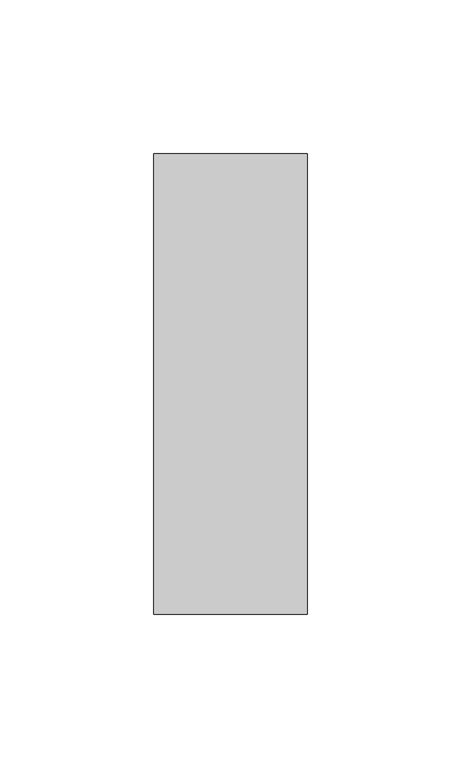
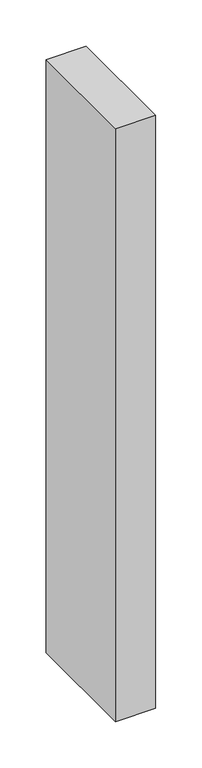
"""IFC4 building model written with IfcOpenShell, lengths in millimetres: member geometry, Прямоугольный импост : 50х150мм."""

from ifc_helpers import new_model, si_unit, frame, origin, place, context, project, spatial, polyline, outline, extrude, source, transform, mapped, element, save


def member_14014a91(model_context):
    return source(origin(), model_context, "Body", "SweptSolid", [
        extrude(outline(polyline([(0.0, 75.0), (0.0, -75.0), (-50.0, -75.0), (-50.0, 75.0), (0.0, 75.0)])), frame((0.0, 0.0, -781.8168429), z_axis=(0.0, 0.0, 1.0), x_axis=(1.0, 0.0, 0.0)), (0.0, 0.0, 1.0), 781.8168429),
    ])


if __name__ == "__main__":
    model = new_model("IFC4")
    model_context = context("Model", 3, world=origin())
    ifc_project = project(units=[si_unit("LENGTHUNIT", "METRE", prefix="MILLI")], contexts=[model_context])
    site = spatial("IfcSite", under=ifc_project)
    building = spatial("IfcBuilding", under=site)
    placement = place(None, origin())
    member_shape = member_14014a91(model_context)
    element("IfcMember", 1, ObjectType="Прямоугольный импост : 50х150мм", at=placement, inside=building, context=model_context, shape_type="MappedRepresentation", body=[
        mapped(member_shape, transform((0.0, 0.0, 0.0), x_axis=(1.0, 0.0, 0.0), y_axis=(0.0, 1.0, 0.0), z_axis=(0.0, 0.0, 1.0))),
    ])
    save(model, "model.ifc")
